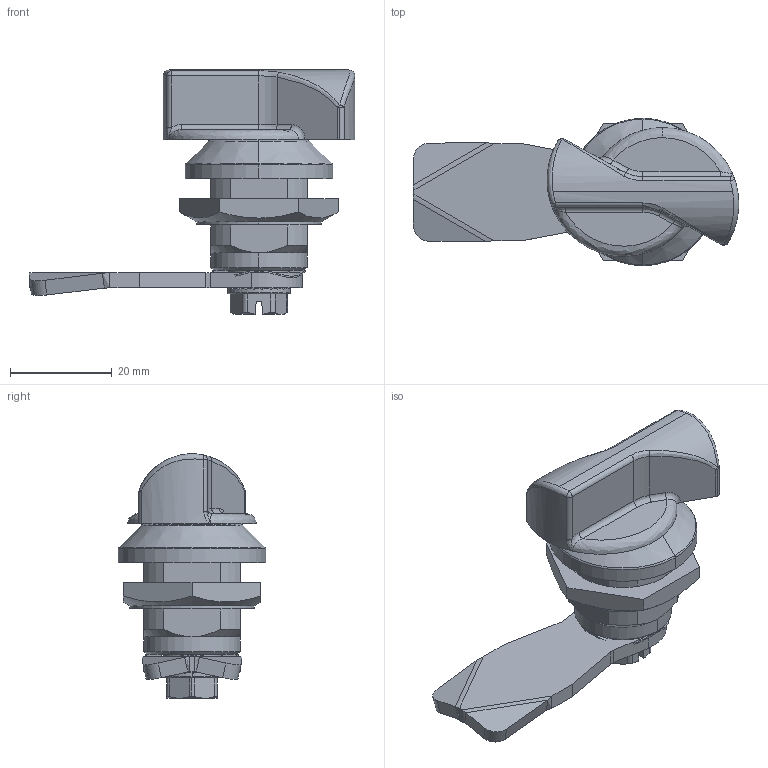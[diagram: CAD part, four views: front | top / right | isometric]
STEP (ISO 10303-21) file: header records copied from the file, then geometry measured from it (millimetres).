
FILE_DESCRIPTION (( 'STEP AP214' ), '1' );
FILE_NAME ('M22D-M.STEP', '2016-09-08T09:06:05', ( '' ), ( '' ), 'SwSTEP 2.0', 'SolidWorks 2015', '' );
FILE_SCHEMA (( 'AUTOMOTIVE_DESIGN' ));
Length unit declared in the file: millimetre
Products named in the file (9): DIN 3771_9.1x1.6; DIN 6921_M6x6; 2.NKR_M22 - A1; Podk³adka falista (4x giêta); 1C.J-1XX.GH.L_#3, 1.00.18.45; 2. KLD5-PA.01.00.11; 2.S.M22D.001_D5; 2.K.M22D.002_90; M22D-M
Assembly tree (8 placements, depth 2):
  M22D-M
    2.K.M22D.002_90
    2.S.M22D.001_D5
    2. KLD5-PA.01.00.11
    1C.J-1XX.GH.L_#3, 1.00.18.45
    Podk³adka falista (4x giêta)
    2.NKR_M22 - A1
    DIN 6921_M6x6
    DIN 3771_9.1x1.6
Bounding box: 64.01 x 29 x 48.03 mm (x, y, z)
Volume: 18368.9 mm3; surface area: 13680 mm2
Topology: 8 solids, 8 shells, 371 faces, 919 edges, 558 vertices
Faces by surface type: plane 161, cylinder 86, bspline 47, cone 44, torus 26, sphere 7
Entity records: 13706 total; most frequent: CARTESIAN_POINT 5176, ORIENTED_EDGE 1808, DIRECTION 1572, EDGE_CURVE 904, AXIS2_PLACEMENT_3D 610, VERTEX_POINT 558, EDGE_LOOP 390, FACE_OUTER_BOUND 371
